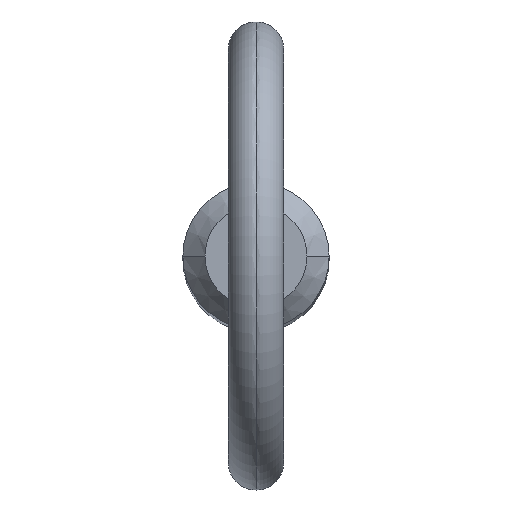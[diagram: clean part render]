
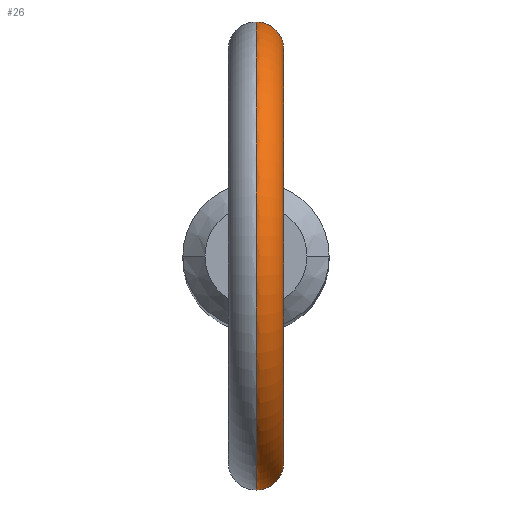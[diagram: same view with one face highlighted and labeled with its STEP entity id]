
A CAD part, top view. The second image highlights one B-rep face of the part: STEP entity #26.
In plain terms, the highlighted toroidal (fillet/blend) face has major radius 11.2 mm and minor radius 1.5 mm.
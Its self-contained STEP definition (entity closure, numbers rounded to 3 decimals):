
#4 = CARTESIAN_POINT ( 'NONE',  ( 0.949, 3.851, 82.249 ) ) ;
#6 = DIRECTION ( 'NONE',  ( 0., 0., -1. ) ) ;
#10 = FACE_OUTER_BOUND ( 'NONE', #255, .T. ) ;
#12 = EDGE_CURVE ( 'NONE', #291, #436, #189, .T. ) ;
#13 = CARTESIAN_POINT ( 'NONE',  ( 1.447, -3.692, 82.993 ) ) ;
#17 = ORIENTED_EDGE ( 'NONE', *, *, #59, .T. ) ;
#26 = ADVANCED_FACE ( 'NONE', ( #10 ), #333, .T. ) ;
#49 = CARTESIAN_POINT ( 'NONE',  ( 1.237, -3.77, 82.531 ) ) ;
#51 = CARTESIAN_POINT ( 'NONE',  ( 1.404, -3.708, 84.001 ) ) ;
#52 = DIRECTION ( 'NONE',  ( 1., 0., 0. ) ) ;
#56 = VERTEX_POINT ( 'NONE', #127 ) ;
#57 = CARTESIAN_POINT ( 'NONE',  ( 0., 0., 94. ) ) ;
#59 = EDGE_CURVE ( 'NONE', #291, #240, #392, .T. ) ;
#69 = EDGE_CURVE ( 'NONE', #436, #56, #233, .T. ) ;
#70 = EDGE_CURVE ( 'NONE', #56, #240, #263, .T. ) ;
#86 = CARTESIAN_POINT ( 'NONE',  ( 1.471, -3.682, 83.094 ) ) ;
#87 = CARTESIAN_POINT ( 'NONE',  ( 1.186, -3.786, 84.459 ) ) ;
#89 = CARTESIAN_POINT ( 'NONE',  ( 0.205, -3.961, 85.134 ) ) ;
#91 = CARTESIAN_POINT ( 'NONE',  ( 0.205, -3.965, 81.935 ) ) ;
#114 = CARTESIAN_POINT ( 'NONE',  ( 0.204, 3.965, 81.935 ) ) ;
#120 = CARTESIAN_POINT ( 'NONE',  ( 1.479, -3.679, 83.707 ) ) ;
#122 = CARTESIAN_POINT ( 'NONE',  ( 1.346, -3.73, 82.708 ) ) ;
#125 = DIRECTION ( 'NONE',  ( 0., 0., -1. ) ) ;
#127 = CARTESIAN_POINT ( 'NONE',  ( 0., -3.965, 85.147 ) ) ;
#134 = CARTESIAN_POINT ( 'NONE',  ( 0., -3.965, 81.935 ) ) ;
#147 = AXIS2_PLACEMENT_3D ( 'NONE', #292, #324, #125 ) ;
#149 = ORIENTED_EDGE ( 'NONE', *, *, #12, .F. ) ;
#154 = CARTESIAN_POINT ( 'NONE',  ( 0.927, 3.858, 84.767 ) ) ;
#156 = CARTESIAN_POINT ( 'NONE',  ( 1.47, 3.682, 83.092 ) ) ;
#161 = CARTESIAN_POINT ( 'NONE',  ( 0.206, 3.965, 85.147 ) ) ;
#163 = CARTESIAN_POINT ( 'NONE',  ( 1.499, 3.671, 83.294 ) ) ;
#165 = CARTESIAN_POINT ( 'NONE',  ( 0.925, -3.858, 84.768 ) ) ;
#167 = CARTESIAN_POINT ( 'NONE',  ( 1.499, -3.671, 83.297 ) ) ;
#173 = CARTESIAN_POINT ( 'NONE',  ( 0.409, -3.948, 81.974 ) ) ;
#189 = B_SPLINE_CURVE_WITH_KNOTS ( 'NONE', 3,
 ( #208, #114, #248, #244, #511, #4, #280, #394, #400, #390, #156, #163, #434, #397, #319, #282, #202, #154, #512, #433, #161, #473 ),
 .UNSPECIFIED., .F., .F.,
 ( 4, 2, 2, 2, 2, 2, 2, 2, 2, 2, 4 ),
 ( 0.001, 0.001, 0.002, 0.002, 0.003, 0.003, 0.003, 0.004, 0.004, 0.005, 0.006 ),
 .UNSPECIFIED. ) ;
#194 = ORIENTED_EDGE ( 'NONE', *, *, #69, .F. ) ;
#202 = CARTESIAN_POINT ( 'NONE',  ( 1.185, 3.786, 84.46 ) ) ;
#205 = AXIS2_PLACEMENT_3D ( 'NONE', #57, #52, #253 ) ;
#208 = CARTESIAN_POINT ( 'NONE',  ( 0., 3.965, 81.935 ) ) ;
#212 = CARTESIAN_POINT ( 'NONE',  ( 1.028, -3.83, 82.315 ) ) ;
#214 = CARTESIAN_POINT ( 'NONE',  ( 0.77, -3.894, 84.9 ) ) ;
#233 = CIRCLE ( 'NONE', #205, 9.7 ) ;
#240 = VERTEX_POINT ( 'NONE', #134 ) ;
#244 = CARTESIAN_POINT ( 'NONE',  ( 0.691, 3.905, 82.089 ) ) ;
#248 = CARTESIAN_POINT ( 'NONE',  ( 0.41, 3.948, 81.974 ) ) ;
#253 = DIRECTION ( 'NONE',  ( 0., 0., -1. ) ) ;
#255 = EDGE_LOOP ( 'NONE', ( #149, #17, #495, #194 ) ) ;
#258 = CARTESIAN_POINT ( 'NONE',  ( 0.404, -3.946, 85.082 ) ) ;
#263 = B_SPLINE_CURVE_WITH_KNOTS ( 'NONE', 3,
 ( #407, #289, #89, #258, #326, #214, #165, #87, #476, #51, #329, #120, #478, #482, #167, #86, #13, #122, #49, #212, #287, #443, #293, #173, #91, #401 ),
 .UNSPECIFIED., .F., .F.,
 ( 4, 2, 2, 2, 2, 2, 2, 2, 2, 2, 2, 2, 4 ),
 ( 0.004, 0.005, 0.005, 0.005, 0.006, 0.006, 0.007, 0.007, 0.007, 0.008, 0.008, 0.008, 0.009 ),
 .UNSPECIFIED. ) ;
#280 = CARTESIAN_POINT ( 'NONE',  ( 1.026, 3.831, 82.313 ) ) ;
#282 = CARTESIAN_POINT ( 'NONE',  ( 1.291, 3.75, 84.284 ) ) ;
#285 = CARTESIAN_POINT ( 'NONE',  ( 0., 0., 94. ) ) ;
#287 = CARTESIAN_POINT ( 'NONE',  ( 0.949, -3.851, 82.249 ) ) ;
#289 = CARTESIAN_POINT ( 'NONE',  ( 0.102, -3.965, 85.147 ) ) ;
#291 = VERTEX_POINT ( 'NONE', #425 ) ;
#292 = CARTESIAN_POINT ( 'NONE',  ( 0., 0., 94. ) ) ;
#293 = CARTESIAN_POINT ( 'NONE',  ( 0.693, -3.905, 82.09 ) ) ;
#319 = CARTESIAN_POINT ( 'NONE',  ( 1.441, 3.695, 83.908 ) ) ;
#324 = DIRECTION ( 'NONE',  ( 1., 0., 0. ) ) ;
#326 = CARTESIAN_POINT ( 'NONE',  ( 0.498, -3.935, 85.044 ) ) ;
#329 = CARTESIAN_POINT ( 'NONE',  ( 1.434, -3.697, 83.905 ) ) ;
#333 = TOROIDAL_SURFACE ( 'NONE', #344, 11.2, 1.5 ) ;
#344 = AXIS2_PLACEMENT_3D ( 'NONE', #285, #361, #6 ) ;
#361 = DIRECTION ( 'NONE',  ( 1., 0., 0. ) ) ;
#390 = CARTESIAN_POINT ( 'NONE',  ( 1.447, 3.692, 82.993 ) ) ;
#392 = CIRCLE ( 'NONE', #147, 12.7 ) ;
#394 = CARTESIAN_POINT ( 'NONE',  ( 1.236, 3.77, 82.529 ) ) ;
#397 = CARTESIAN_POINT ( 'NONE',  ( 1.488, 3.675, 83.705 ) ) ;
#400 = CARTESIAN_POINT ( 'NONE',  ( 1.344, 3.731, 82.703 ) ) ;
#401 = CARTESIAN_POINT ( 'NONE',  ( 0., -3.965, 81.935 ) ) ;
#407 = CARTESIAN_POINT ( 'NONE',  ( 0., -3.965, 85.147 ) ) ;
#425 = CARTESIAN_POINT ( 'NONE',  ( 0., 3.965, 81.935 ) ) ;
#433 = CARTESIAN_POINT ( 'NONE',  ( 0.411, 3.948, 85.091 ) ) ;
#434 = CARTESIAN_POINT ( 'NONE',  ( 1.503, 3.669, 83.398 ) ) ;
#436 = VERTEX_POINT ( 'NONE', #468 ) ;
#443 = CARTESIAN_POINT ( 'NONE',  ( 0.782, -3.888, 82.137 ) ) ;
#468 = CARTESIAN_POINT ( 'NONE',  ( 0., 3.965, 85.147 ) ) ;
#473 = CARTESIAN_POINT ( 'NONE',  ( 0., 3.965, 85.147 ) ) ;
#476 = CARTESIAN_POINT ( 'NONE',  ( 1.291, -3.75, 84.283 ) ) ;
#478 = CARTESIAN_POINT ( 'NONE',  ( 1.493, -3.673, 83.604 ) ) ;
#482 = CARTESIAN_POINT ( 'NONE',  ( 1.503, -3.669, 83.399 ) ) ;
#495 = ORIENTED_EDGE ( 'NONE', *, *, #70, .F. ) ;
#511 = CARTESIAN_POINT ( 'NONE',  ( 0.782, 3.888, 82.137 ) ) ;
#512 = CARTESIAN_POINT ( 'NONE',  ( 0.769, 3.894, 84.901 ) ) ;
